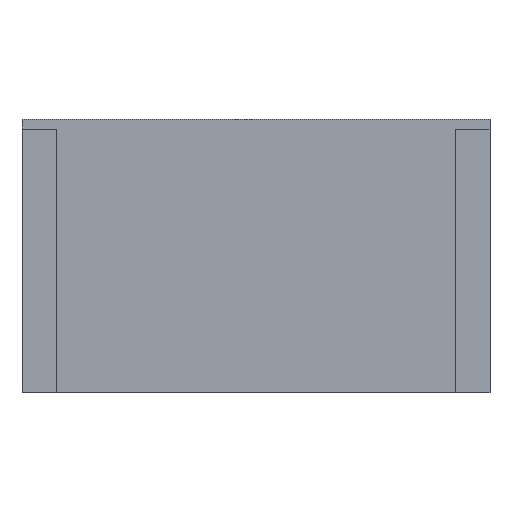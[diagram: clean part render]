
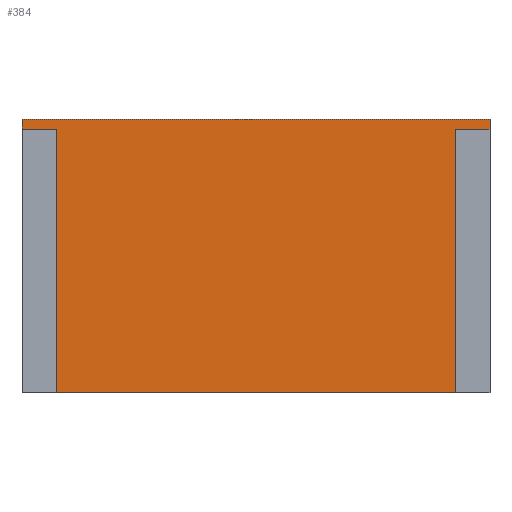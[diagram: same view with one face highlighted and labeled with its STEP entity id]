
A CAD part, top view. The second image highlights one B-rep face of the part: STEP entity #384.
In plain terms, the highlighted planar face has unit normal (0, 0, 1).
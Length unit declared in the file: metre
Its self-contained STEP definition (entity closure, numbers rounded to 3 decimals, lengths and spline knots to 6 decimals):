
#82=ORIENTED_EDGE('',*,*,#136,.F.);
#83=ORIENTED_EDGE('',*,*,#142,.T.);
#84=ORIENTED_EDGE('',*,*,#132,.T.);
#85=ORIENTED_EDGE('',*,*,#151,.T.);
#86=ORIENTED_EDGE('',*,*,#129,.F.);
#87=ORIENTED_EDGE('',*,*,#168,.T.);
#88=ORIENTED_EDGE('',*,*,#171,.T.);
#89=ORIENTED_EDGE('',*,*,#174,.F.);
#129=EDGE_CURVE('',#183,#180,#219,.T.);
#132=EDGE_CURVE('',#187,#186,#222,.T.);
#136=EDGE_CURVE('',#190,#191,#226,.T.);
#142=EDGE_CURVE('',#190,#187,#231,.T.);
#151=EDGE_CURVE('',#186,#180,#239,.T.);
#168=EDGE_CURVE('',#183,#213,#254,.T.);
#171=EDGE_CURVE('',#213,#215,#257,.T.);
#174=EDGE_CURVE('',#191,#215,#260,.T.);
#180=VERTEX_POINT('',#534);
#183=VERTEX_POINT('',#539);
#186=VERTEX_POINT('',#546);
#187=VERTEX_POINT('',#548);
#190=VERTEX_POINT('',#555);
#191=VERTEX_POINT('',#557);
#213=VERTEX_POINT('',#615);
#215=VERTEX_POINT('',#621);
#219=LINE('',#540,#269);
#222=LINE('',#547,#272);
#226=LINE('',#556,#276);
#231=LINE('',#568,#281);
#239=LINE('',#585,#289);
#254=LINE('',#616,#304);
#257=LINE('',#622,#307);
#260=LINE('',#626,#310);
#269=VECTOR('',#438,1.);
#272=VECTOR('',#443,1.);
#276=VECTOR('',#449,1.);
#281=VECTOR('',#458,1.);
#289=VECTOR('',#472,1.);
#304=VECTOR('',#495,1.);
#307=VECTOR('',#500,1.);
#310=VECTOR('',#505,1.);
#326=EDGE_LOOP('',(#82,#83,#84,#85,#86,#87,#88,#89));
#346=FACE_BOUND('',#326,.T.);
#366=PLANE('',#421);
#384=ADVANCED_FACE('',(#346),#366,.T.);
#421=AXIS2_PLACEMENT_3D('',#628,#507,#508);
#438=DIRECTION('',(0.,1.,0.));
#443=DIRECTION('',(0.,1.,0.));
#449=DIRECTION('',(0.,-1.,0.));
#458=DIRECTION('',(1.,0.,0.));
#472=DIRECTION('',(-1.,0.,0.));
#495=DIRECTION('',(1.,0.,0.));
#500=DIRECTION('',(0.,-1.,0.));
#505=DIRECTION('',(-1.,0.,0.));
#507=DIRECTION('',(0.,0.,1.));
#508=DIRECTION('',(1.,0.,0.));
#534=CARTESIAN_POINT('',(-0.048,0.028,0.0275));
#539=CARTESIAN_POINT('',(-0.048,0.026,0.0275));
#540=CARTESIAN_POINT('',(-0.048,0.027,0.0275));
#546=CARTESIAN_POINT('',(0.048,0.028,0.0275));
#547=CARTESIAN_POINT('',(0.048,0.027,0.0275));
#548=CARTESIAN_POINT('',(0.048,0.026,0.0275));
#555=CARTESIAN_POINT('',(0.041,0.026,0.0275));
#556=CARTESIAN_POINT('',(0.041,-0.001,0.0275));
#557=CARTESIAN_POINT('',(0.041,-0.028,0.0275));
#568=CARTESIAN_POINT('',(0.0445,0.026,0.0275));
#585=CARTESIAN_POINT('',(0.,0.028,0.0275));
#615=CARTESIAN_POINT('',(-0.041,0.026,0.0275));
#616=CARTESIAN_POINT('',(-0.0445,0.026,0.0275));
#621=CARTESIAN_POINT('',(-0.041,-0.028,0.0275));
#622=CARTESIAN_POINT('',(-0.041,-0.001,0.0275));
#626=CARTESIAN_POINT('',(0.,-0.028,0.0275));
#628=CARTESIAN_POINT('',(0.,0.,0.0275));
